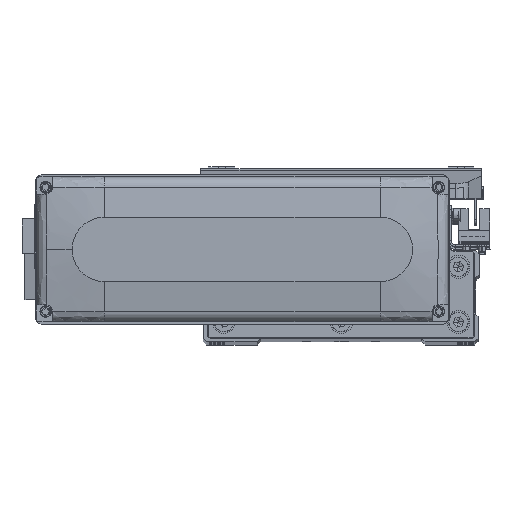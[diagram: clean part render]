
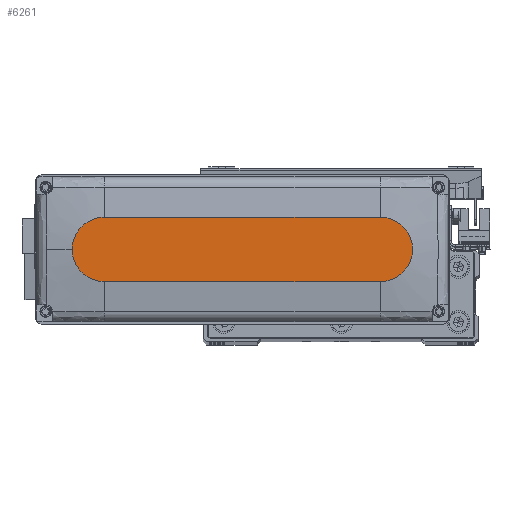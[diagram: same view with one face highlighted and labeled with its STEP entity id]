
A CAD part, top view. The second image highlights one B-rep face of the part: STEP entity #6261.
In plain terms, the highlighted planar face has unit normal (0, 0, 1).
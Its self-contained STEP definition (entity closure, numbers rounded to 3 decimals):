
#695 = ORIENTED_EDGE ( 'NONE', *, *, #34094, .T. ) ;
#2505 = VERTEX_POINT ( 'NONE', #24935 ) ;
#3534 = VERTEX_POINT ( 'NONE', #36002 ) ;
#4608 = CARTESIAN_POINT ( 'NONE',  ( 60., 0., 28.5 ) ) ;
#4662 = CARTESIAN_POINT ( 'NONE',  ( 0., 0., 28.5 ) ) ;
#5266 = AXIS2_PLACEMENT_3D ( 'NONE', #27731, #19587, #31237 ) ;
#6261 = ADVANCED_FACE ( 'NONE', ( #40020 ), #26518, .T. ) ;
#7370 = VECTOR ( 'NONE', #33381, 1000. ) ;
#8467 = CARTESIAN_POINT ( 'NONE',  ( -60., 0., 28.5 ) ) ;
#8606 = VERTEX_POINT ( 'NONE', #10571 ) ;
#8713 = CARTESIAN_POINT ( 'NONE',  ( -60., 14., 28.5 ) ) ;
#10571 = CARTESIAN_POINT ( 'NONE',  ( 60., 14., 28.5 ) ) ;
#10833 = AXIS2_PLACEMENT_3D ( 'NONE', #8467, #40098, #36622 ) ;
#15129 = DIRECTION ( 'NONE',  ( 0., 0., 1. ) ) ;
#16190 = EDGE_LOOP ( 'NONE', ( #18632, #39516, #695, #29326, #37993 ) ) ;
#17814 = EDGE_CURVE ( 'NONE', #8606, #21251, #29442, .T. ) ;
#18408 = DIRECTION ( 'NONE',  ( 1., 0., 0. ) ) ;
#18477 = EDGE_CURVE ( 'NONE', #3534, #41177, #21514, .T. ) ;
#18632 = ORIENTED_EDGE ( 'NONE', *, *, #17814, .T. ) ;
#18806 = DIRECTION ( 'NONE',  ( 0., 0., 1. ) ) ;
#19587 = DIRECTION ( 'NONE',  ( 0., 0., 1. ) ) ;
#21214 = CARTESIAN_POINT ( 'NONE',  ( 74., 0., 28.5 ) ) ;
#21251 = VERTEX_POINT ( 'NONE', #27226 ) ;
#21514 = CIRCLE ( 'NONE', #34905, 14. ) ;
#23433 = CIRCLE ( 'NONE', #10833, 14. ) ;
#24935 = CARTESIAN_POINT ( 'NONE',  ( -60., -14., 28.5 ) ) ;
#26518 = PLANE ( 'NONE',  #41952 ) ;
#26811 = DIRECTION ( 'NONE',  ( 1., 0., 0. ) ) ;
#27197 = EDGE_CURVE ( 'NONE', #41177, #8606, #41679, .T. ) ;
#27226 = CARTESIAN_POINT ( 'NONE',  ( -60., 14., 28.5 ) ) ;
#27279 = LINE ( 'NONE', #45164, #42012 ) ;
#27731 = CARTESIAN_POINT ( 'NONE',  ( 60., 0., 28.5 ) ) ;
#29326 = ORIENTED_EDGE ( 'NONE', *, *, #18477, .T. ) ;
#29442 = LINE ( 'NONE', #8713, #7370 ) ;
#31237 = DIRECTION ( 'NONE',  ( 1., 0., 0. ) ) ;
#33381 = DIRECTION ( 'NONE',  ( -1., 0., 0. ) ) ;
#33925 = EDGE_CURVE ( 'NONE', #21251, #2505, #23433, .T. ) ;
#34094 = EDGE_CURVE ( 'NONE', #2505, #3534, #27279, .T. ) ;
#34905 = AXIS2_PLACEMENT_3D ( 'NONE', #4608, #18806, #40410 ) ;
#36002 = CARTESIAN_POINT ( 'NONE',  ( 60., -14., 28.5 ) ) ;
#36622 = DIRECTION ( 'NONE',  ( 1., 0., 0. ) ) ;
#37993 = ORIENTED_EDGE ( 'NONE', *, *, #27197, .T. ) ;
#39516 = ORIENTED_EDGE ( 'NONE', *, *, #33925, .T. ) ;
#40020 = FACE_OUTER_BOUND ( 'NONE', #16190, .T. ) ;
#40098 = DIRECTION ( 'NONE',  ( 0., 0., 1. ) ) ;
#40410 = DIRECTION ( 'NONE',  ( 1., 0., 0. ) ) ;
#41177 = VERTEX_POINT ( 'NONE', #21214 ) ;
#41679 = CIRCLE ( 'NONE', #5266, 14. ) ;
#41952 = AXIS2_PLACEMENT_3D ( 'NONE', #4662, #15129, #18408 ) ;
#42012 = VECTOR ( 'NONE', #26811, 1000. ) ;
#45164 = CARTESIAN_POINT ( 'NONE',  ( -60., -14., 28.5 ) ) ;
